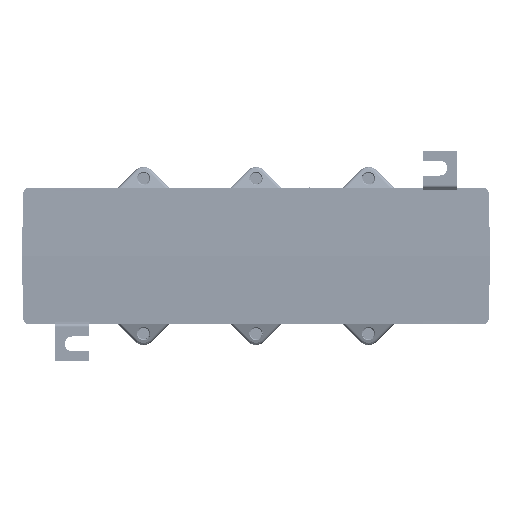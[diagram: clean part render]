
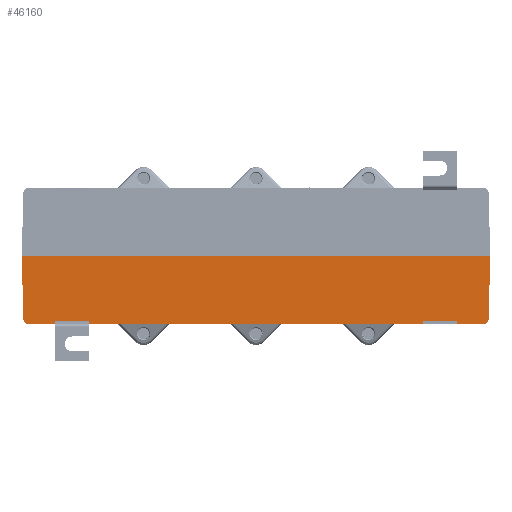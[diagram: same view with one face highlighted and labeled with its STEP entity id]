
A CAD part, front view. The second image highlights one B-rep face of the part: STEP entity #46160.
In plain terms, the highlighted planar face has unit normal (0, -1, -0.018).
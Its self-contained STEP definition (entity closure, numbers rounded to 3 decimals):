
#387=ELLIPSE('',#49036,3.,3.);
#388=ELLIPSE('',#49037,3.,3.);
#805=PLANE('',#49035);
#3303=FACE_OUTER_BOUND('',#5858,.T.);
#5858=EDGE_LOOP('',(#33328,#33329,#33330,#33331,#33332,#33333,#33334,#33335,
#33336,#33337,#33338,#33339,#33340,#33341));
#10964=LINE('',#106007,#14979);
#10970=LINE('',#106019,#14985);
#10974=LINE('',#106027,#14989);
#11036=LINE('',#106242,#15051);
#11037=LINE('',#106245,#15052);
#11038=LINE('',#106247,#15053);
#11039=LINE('',#106248,#15054);
#11040=LINE('',#106250,#15055);
#11041=LINE('',#106252,#15056);
#11042=LINE('',#106253,#15057);
#11043=LINE('',#106257,#15058);
#11044=LINE('',#106258,#15059);
#14979=VECTOR('',#54068,1000.);
#14985=VECTOR('',#54074,1000.);
#14989=VECTOR('',#54078,1000.);
#15051=VECTOR('',#54234,1000.);
#15052=VECTOR('',#54237,1000.);
#15053=VECTOR('',#54238,1000.);
#15054=VECTOR('',#54239,1000.);
#15055=VECTOR('',#54240,1000.);
#15056=VECTOR('',#54241,1000.);
#15057=VECTOR('',#54242,1000.);
#15058=VECTOR('',#54245,1000.);
#15059=VECTOR('',#54246,1000.);
#19826=VERTEX_POINT('',#106005);
#19827=VERTEX_POINT('',#106006);
#19832=VERTEX_POINT('',#106016);
#19833=VERTEX_POINT('',#106018);
#19836=VERTEX_POINT('',#106024);
#19837=VERTEX_POINT('',#106026);
#19942=VERTEX_POINT('',#106240);
#19943=VERTEX_POINT('',#106241);
#19944=VERTEX_POINT('',#106244);
#19945=VERTEX_POINT('',#106246);
#19946=VERTEX_POINT('',#106249);
#19947=VERTEX_POINT('',#106251);
#19948=VERTEX_POINT('',#106254);
#19949=VERTEX_POINT('',#106256);
#24876=EDGE_CURVE('',#19826,#19827,#10964,.T.);
#24882=EDGE_CURVE('',#19832,#19833,#10970,.T.);
#24886=EDGE_CURVE('',#19836,#19837,#10974,.T.);
#24994=EDGE_CURVE('',#19942,#19943,#11036,.T.);
#24995=EDGE_CURVE('',#19942,#19827,#387,.T.);
#24996=EDGE_CURVE('',#19826,#19944,#11037,.T.);
#24997=EDGE_CURVE('',#19944,#19945,#11038,.T.);
#24998=EDGE_CURVE('',#19945,#19837,#11039,.T.);
#24999=EDGE_CURVE('',#19946,#19836,#11040,.T.);
#25000=EDGE_CURVE('',#19947,#19946,#11041,.T.);
#25001=EDGE_CURVE('',#19833,#19947,#11042,.T.);
#25002=EDGE_CURVE('',#19832,#19948,#388,.T.);
#25003=EDGE_CURVE('',#19948,#19949,#11043,.T.);
#25004=EDGE_CURVE('',#19943,#19949,#11044,.T.);
#33328=ORIENTED_EDGE('',*,*,#24994,.F.);
#33329=ORIENTED_EDGE('',*,*,#24995,.T.);
#33330=ORIENTED_EDGE('',*,*,#24876,.F.);
#33331=ORIENTED_EDGE('',*,*,#24996,.T.);
#33332=ORIENTED_EDGE('',*,*,#24997,.T.);
#33333=ORIENTED_EDGE('',*,*,#24998,.T.);
#33334=ORIENTED_EDGE('',*,*,#24886,.F.);
#33335=ORIENTED_EDGE('',*,*,#24999,.F.);
#33336=ORIENTED_EDGE('',*,*,#25000,.F.);
#33337=ORIENTED_EDGE('',*,*,#25001,.F.);
#33338=ORIENTED_EDGE('',*,*,#24882,.F.);
#33339=ORIENTED_EDGE('',*,*,#25002,.T.);
#33340=ORIENTED_EDGE('',*,*,#25003,.T.);
#33341=ORIENTED_EDGE('',*,*,#25004,.F.);
#46160=ADVANCED_FACE('',(#3303),#805,.T.);
#49035=AXIS2_PLACEMENT_3D('',#106239,#54232,#54233);
#49036=AXIS2_PLACEMENT_3D('',#106243,#54235,#54236);
#49037=AXIS2_PLACEMENT_3D('',#106255,#54243,#54244);
#54068=DIRECTION('',(-1.,0.,0.));
#54074=DIRECTION('',(-1.,0.,0.));
#54078=DIRECTION('',(-1.,0.,0.));
#54232=DIRECTION('center_axis',(0.,-1.,
-0.017));
#54233=DIRECTION('ref_axis',(0.,-0.017,
1.));
#54234=DIRECTION('',(-0.017,-0.017,1.));
#54235=DIRECTION('center_axis',(0.,-1.,
-0.017));
#54236=DIRECTION('ref_axis',(0.,-0.017,1.));
#54237=DIRECTION('',(0.,-0.017,1.));
#54238=DIRECTION('',(1.,0.,0.));
#54239=DIRECTION('',(0.,0.017,-1.));
#54240=DIRECTION('',(0.,0.017,-1.));
#54241=DIRECTION('',(-1.,0.,0.));
#54242=DIRECTION('',(0.,-0.017,1.));
#54243=DIRECTION('center_axis',(0.,-1.,
-0.017));
#54244=DIRECTION('ref_axis',(0.,-0.017,
1.));
#54245=DIRECTION('',(0.017,-0.017,1.));
#54246=DIRECTION('',(1.,0.,0.));
#106005=CARTESIAN_POINT('',(-88.05,-94.476,-30.));
#106006=CARTESIAN_POINT('',(-99.028,-94.476,-30.));
#106007=CARTESIAN_POINT('',(-102.5,-94.476,-30.));
#106016=CARTESIAN_POINT('',(99.028,-94.476,-30.));
#106018=CARTESIAN_POINT('',(88.05,-94.476,-30.));
#106019=CARTESIAN_POINT('',(-102.5,-94.476,-30.));
#106024=CARTESIAN_POINT('',(72.95,-94.476,-30.));
#106026=CARTESIAN_POINT('',(-72.95,-94.476,-30.));
#106027=CARTESIAN_POINT('',(-102.5,-94.476,-30.));
#106239=CARTESIAN_POINT('Origin',(-102.5,-95.,0.));
#106240=CARTESIAN_POINT('',(-102.028,-94.528,-27.052));
#106241=CARTESIAN_POINT('',(-102.5,-95.,0.));
#106242=CARTESIAN_POINT('',(-102.5,-95.,0.));
#106243=CARTESIAN_POINT('Origin',(-99.028,-94.529,-27.));
#106244=CARTESIAN_POINT('',(-88.05,-94.5,-28.645));
#106245=CARTESIAN_POINT('',(-88.05,-95.,0.));
#106246=CARTESIAN_POINT('',(-72.95,-94.5,-28.645));
#106247=CARTESIAN_POINT('',(-102.5,-94.5,-28.645));
#106248=CARTESIAN_POINT('',(-72.95,-95.,0.));
#106249=CARTESIAN_POINT('',(72.95,-94.5,-28.645));
#106250=CARTESIAN_POINT('',(72.95,-95.,0.));
#106251=CARTESIAN_POINT('',(88.05,-94.5,-28.645));
#106252=CARTESIAN_POINT('',(-102.5,-94.5,-28.645));
#106253=CARTESIAN_POINT('',(88.05,-95.,0.));
#106254=CARTESIAN_POINT('',(102.028,-94.528,-27.052));
#106255=CARTESIAN_POINT('Origin',(99.028,-94.529,-27.));
#106256=CARTESIAN_POINT('',(102.5,-95.,0.));
#106257=CARTESIAN_POINT('',(102.438,-94.938,-3.576));
#106258=CARTESIAN_POINT('',(102.5,-95.,0.));
